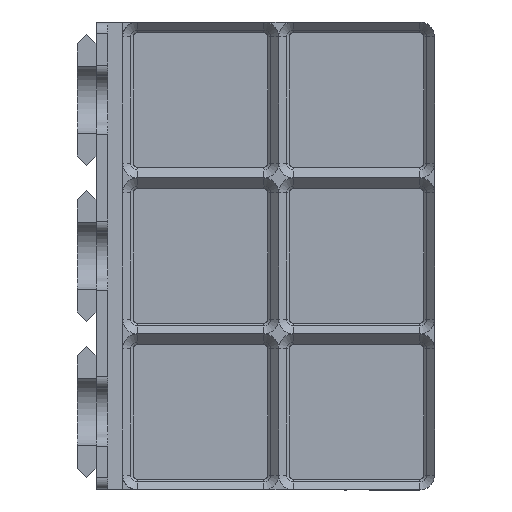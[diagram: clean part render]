
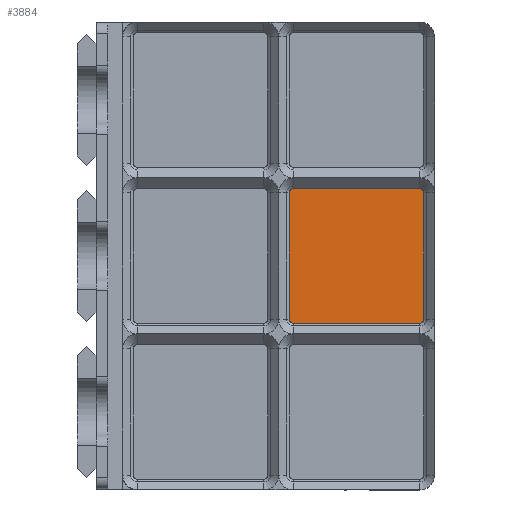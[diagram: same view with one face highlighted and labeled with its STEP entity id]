
A CAD part, top view. The second image highlights one B-rep face of the part: STEP entity #3884.
In plain terms, the highlighted planar face has unit normal (0, 0, 1).
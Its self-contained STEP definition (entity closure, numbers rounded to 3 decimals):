
#172=CIRCLE('',#4196,1.154);
#173=CIRCLE('',#4197,1.154);
#174=CIRCLE('',#4198,1.154);
#175=CIRCLE('',#4199,1.154);
#348=FACE_OUTER_BOUND('',#604,.T.);
#604=EDGE_LOOP('',(#2889,#2890,#2891,#2892,#2893,#2894,#2895,#2896));
#948=LINE('',#6137,#1370);
#949=LINE('',#6141,#1371);
#950=LINE('',#6145,#1372);
#951=LINE('',#6148,#1373);
#1370=VECTOR('',#4879,10.);
#1371=VECTOR('',#4882,10.);
#1372=VECTOR('',#4885,10.);
#1373=VECTOR('',#4888,10.);
#1773=VERTEX_POINT('',#6133);
#1774=VERTEX_POINT('',#6134);
#1775=VERTEX_POINT('',#6136);
#1776=VERTEX_POINT('',#6138);
#1777=VERTEX_POINT('',#6140);
#1778=VERTEX_POINT('',#6142);
#1779=VERTEX_POINT('',#6144);
#1780=VERTEX_POINT('',#6146);
#2160=EDGE_CURVE('',#1773,#1774,#172,.F.);
#2161=EDGE_CURVE('',#1774,#1775,#948,.F.);
#2162=EDGE_CURVE('',#1775,#1776,#173,.F.);
#2163=EDGE_CURVE('',#1776,#1777,#949,.F.);
#2164=EDGE_CURVE('',#1777,#1778,#174,.F.);
#2165=EDGE_CURVE('',#1778,#1779,#950,.F.);
#2166=EDGE_CURVE('',#1779,#1780,#175,.F.);
#2167=EDGE_CURVE('',#1780,#1773,#951,.F.);
#2889=ORIENTED_EDGE('',*,*,#2160,.T.);
#2890=ORIENTED_EDGE('',*,*,#2161,.T.);
#2891=ORIENTED_EDGE('',*,*,#2162,.T.);
#2892=ORIENTED_EDGE('',*,*,#2163,.T.);
#2893=ORIENTED_EDGE('',*,*,#2164,.T.);
#2894=ORIENTED_EDGE('',*,*,#2165,.T.);
#2895=ORIENTED_EDGE('',*,*,#2166,.T.);
#2896=ORIENTED_EDGE('',*,*,#2167,.T.);
#3727=PLANE('',#4195);
#3884=ADVANCED_FACE('',(#348),#3727,.F.);
#4195=AXIS2_PLACEMENT_3D('',#6132,#4875,#4876);
#4196=AXIS2_PLACEMENT_3D('',#6135,#4877,#4878);
#4197=AXIS2_PLACEMENT_3D('',#6139,#4880,#4881);
#4198=AXIS2_PLACEMENT_3D('',#6143,#4883,#4884);
#4199=AXIS2_PLACEMENT_3D('',#6147,#4886,#4887);
#4875=DIRECTION('center_axis',(0.,0.,-1.));
#4876=DIRECTION('ref_axis',(1.,0.,0.));
#4877=DIRECTION('center_axis',(0.,0.,
-1.));
#4878=DIRECTION('ref_axis',(0.,-1.,0.));
#4879=DIRECTION('',(-1.,0.,0.));
#4880=DIRECTION('center_axis',(0.,0.,
-1.));
#4881=DIRECTION('ref_axis',(1.,0.,0.));
#4882=DIRECTION('',(0.,-1.,0.));
#4883=DIRECTION('center_axis',(0.,0.,
-1.));
#4884=DIRECTION('ref_axis',(0.,1.,0.));
#4885=DIRECTION('',(1.,0.,0.));
#4886=DIRECTION('center_axis',(0.,0.,
-1.));
#4887=DIRECTION('ref_axis',(-1.,0.,0.));
#4888=DIRECTION('',(0.,1.,0.));
#6132=CARTESIAN_POINT('Origin',(162.65,42.,-142.124));
#6133=CARTESIAN_POINT('',(147.996,25.,-142.124));
#6134=CARTESIAN_POINT('',(149.15,23.846,-142.124));
#6135=CARTESIAN_POINT('Origin',(149.15,25.,-142.124));
#6136=CARTESIAN_POINT('',(183.15,23.846,-142.124));
#6137=CARTESIAN_POINT('',(174.65,23.846,-142.124));
#6138=CARTESIAN_POINT('',(184.304,25.,-142.124));
#6139=CARTESIAN_POINT('Origin',(183.15,25.,-142.124));
#6140=CARTESIAN_POINT('',(184.304,59.,-142.124));
#6141=CARTESIAN_POINT('',(184.304,50.5,-142.124));
#6142=CARTESIAN_POINT('',(183.15,60.154,-142.124));
#6143=CARTESIAN_POINT('Origin',(183.15,59.,-142.124));
#6144=CARTESIAN_POINT('',(149.15,60.154,-142.124));
#6145=CARTESIAN_POINT('',(157.65,60.154,-142.124));
#6146=CARTESIAN_POINT('',(147.996,59.,-142.124));
#6147=CARTESIAN_POINT('Origin',(149.15,59.,-142.124));
#6148=CARTESIAN_POINT('',(147.996,42.,-142.124));
